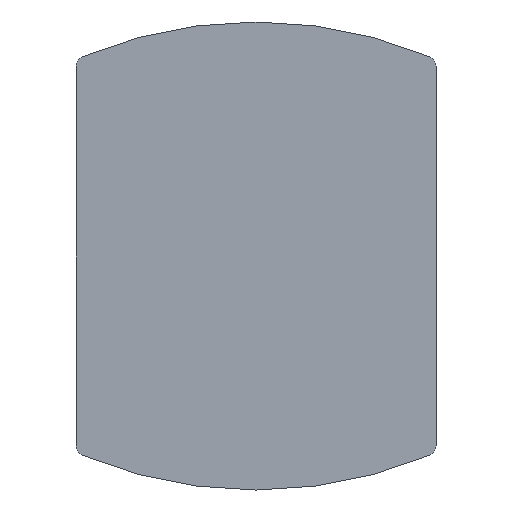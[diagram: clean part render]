
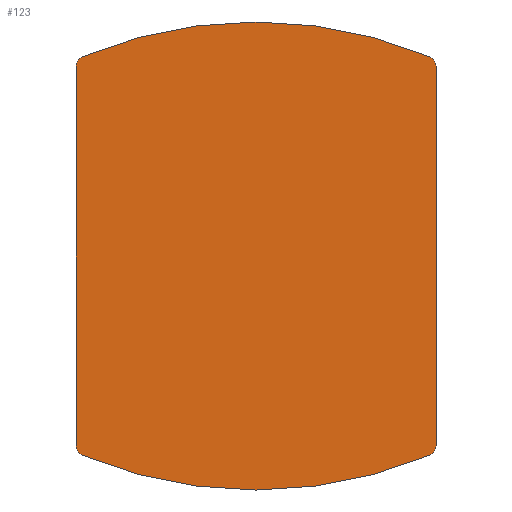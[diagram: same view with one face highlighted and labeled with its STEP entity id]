
A CAD part, left-side view. The second image highlights one B-rep face of the part: STEP entity #123.
In plain terms, the highlighted planar face has unit normal (-1, 0, 0).
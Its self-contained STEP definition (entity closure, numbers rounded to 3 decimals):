
#123=ADVANCED_FACE('',(#644),#646,.F.);
#644=FACE_BOUND('',#645,.T.);
#645=EDGE_LOOP('',(#1068,#1069,#1070,#1071,#1072,#1073,#1074,#1075));
#646=PLANE('',#647);
#647=AXIS2_PLACEMENT_3D('',#648,#649,#650);
#648=CARTESIAN_POINT('',(0.,0.,0.));
#649=DIRECTION('',(1.,0.,0.));
#650=DIRECTION('',(0.,1.,0.));
#1068=ORIENTED_EDGE('',*,*,#1270,.F.);
#1069=ORIENTED_EDGE('',*,*,#1256,.F.);
#1070=ORIENTED_EDGE('',*,*,#1271,.F.);
#1071=ORIENTED_EDGE('',*,*,#1252,.F.);
#1072=ORIENTED_EDGE('',*,*,#1272,.F.);
#1073=ORIENTED_EDGE('',*,*,#1248,.F.);
#1074=ORIENTED_EDGE('',*,*,#1273,.F.);
#1075=ORIENTED_EDGE('',*,*,#1260,.F.);
#1248=EDGE_CURVE('',#1350,#1352,#1353,.T.);
#1252=EDGE_CURVE('',#1358,#1360,#1361,.T.);
#1256=EDGE_CURVE('',#1366,#1368,#1369,.T.);
#1260=EDGE_CURVE('',#1374,#1376,#1377,.T.);
#1270=EDGE_CURVE('',#1368,#1374,#1395,.F.);
#1271=EDGE_CURVE('',#1360,#1366,#1396,.F.);
#1272=EDGE_CURVE('',#1352,#1358,#1397,.F.);
#1273=EDGE_CURVE('',#1376,#1350,#1398,.F.);
#1350=VERTEX_POINT('',#1515);
#1352=VERTEX_POINT('',#1519);
#1353=CIRCLE('',#1520,125.);
#1358=VERTEX_POINT('',#1532);
#1360=VERTEX_POINT('',#1536);
#1361=LINE('',#1537,#1538);
#1366=VERTEX_POINT('',#1549);
#1368=VERTEX_POINT('',#1553);
#1369=CIRCLE('',#1554,125.);
#1374=VERTEX_POINT('',#1566);
#1376=VERTEX_POINT('',#1570);
#1377=LINE('',#1571,#1572);
#1395=CIRCLE('',#1615,3.);
#1396=CIRCLE('',#1619,3.);
#1397=CIRCLE('',#1623,3.);
#1398=CIRCLE('',#1627,3.);
#1515=CARTESIAN_POINT('',(0.,-48.156,-55.352));
#1519=CARTESIAN_POINT('',(0.,48.156,-55.352));
#1520=AXIS2_PLACEMENT_3D('',#1521,#1522,#1523);
#1521=CARTESIAN_POINT('',(0.,0.,60.));
#1522=DIRECTION('',(1.,0.,0.));
#1523=DIRECTION('',(0.,-0.385,-0.923));
#1532=CARTESIAN_POINT('',(0.,50.,-52.583));
#1536=CARTESIAN_POINT('',(0.,50.,52.583));
#1537=CARTESIAN_POINT('',(0.,50.,-52.583));
#1538=VECTOR('',#1539,1.);
#1539=DIRECTION('',(0.,0.,1.));
#1549=CARTESIAN_POINT('',(0.,48.156,55.352));
#1553=CARTESIAN_POINT('',(0.,-48.156,55.352));
#1554=AXIS2_PLACEMENT_3D('',#1555,#1556,#1557);
#1555=CARTESIAN_POINT('',(0.,0.,-60.));
#1556=DIRECTION('',(1.,0.,0.));
#1557=DIRECTION('',(0.,0.385,0.923));
#1566=CARTESIAN_POINT('',(0.,-50.,52.583));
#1570=CARTESIAN_POINT('',(0.,-50.,-52.583));
#1571=CARTESIAN_POINT('',(0.,-50.,52.583));
#1572=VECTOR('',#1573,1.);
#1573=DIRECTION('',(0.,0.,-1.));
#1615=AXIS2_PLACEMENT_3D('',#1616,#1617,#1618);
#1616=CARTESIAN_POINT('',(0.,-47.,52.583));
#1617=DIRECTION('',(-1.,0.,0.));
#1618=DIRECTION('',(0.,-1.,0.));
#1619=AXIS2_PLACEMENT_3D('',#1620,#1621,#1622);
#1620=CARTESIAN_POINT('',(0.,47.,52.583));
#1621=DIRECTION('',(-1.,0.,0.));
#1622=DIRECTION('',(0.,0.385,0.923));
#1623=AXIS2_PLACEMENT_3D('',#1624,#1625,#1626);
#1624=CARTESIAN_POINT('',(0.,47.,-52.583));
#1625=DIRECTION('',(-1.,0.,0.));
#1626=DIRECTION('',(0.,1.,0.));
#1627=AXIS2_PLACEMENT_3D('',#1628,#1629,#1630);
#1628=CARTESIAN_POINT('',(0.,-47.,-52.583));
#1629=DIRECTION('',(-1.,0.,0.));
#1630=DIRECTION('',(0.,-0.385,-0.923));
